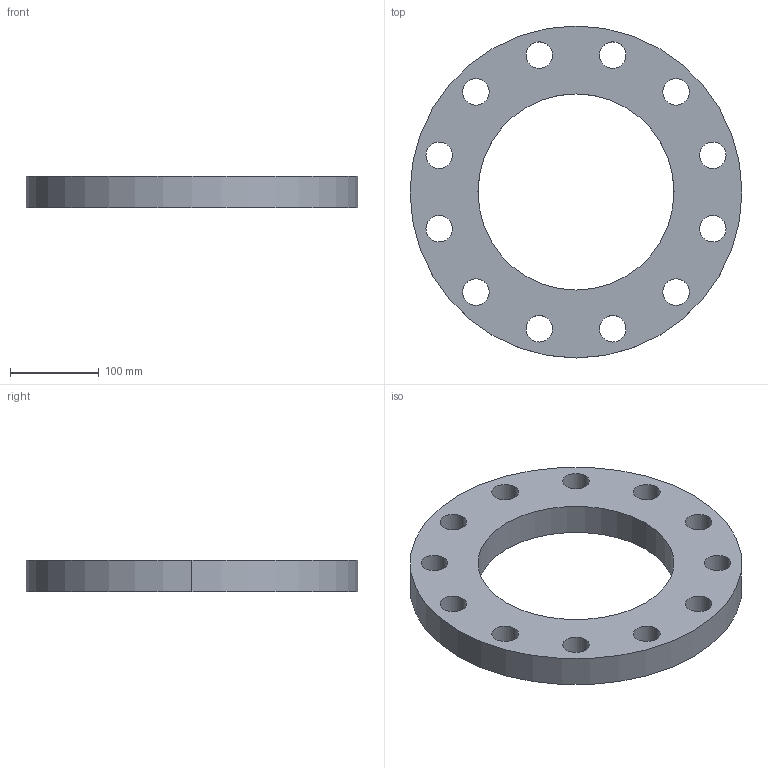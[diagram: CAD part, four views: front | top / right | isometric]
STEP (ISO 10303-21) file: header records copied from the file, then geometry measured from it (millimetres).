
FILE_DESCRIPTION (( 'STEP AP214' ), '1' );
FILE_NAME ('PN40 DN200 Type 01 - Type A Face.STEP', '2019-01-05T02:29:14', ( '' ), ( '' ), 'SwSTEP 2.0', 'SolidWorks 2019', '' );
FILE_SCHEMA (( 'AUTOMOTIVE_DESIGN' ));
Length unit declared in the file: millimetre
Products named in the file (1): PN40 DN200 Type 01 - Type A Face
Bounding box: 375 x 375 x 36 mm (x, y, z)
Volume: 2283513 mm3; surface area: 235039.4 mm2
Topology: 1 solids, 1 shells, 30 faces, 84 edges, 56 vertices
Faces by surface type: cylinder 28, plane 2
Entity records: 1090 total; most frequent: DIRECTION 202, CARTESIAN_POINT 171, ORIENTED_EDGE 168, AXIS2_PLACEMENT_3D 87, EDGE_CURVE 84, VERTEX_POINT 56, CIRCLE 56, EDGE_LOOP 56
